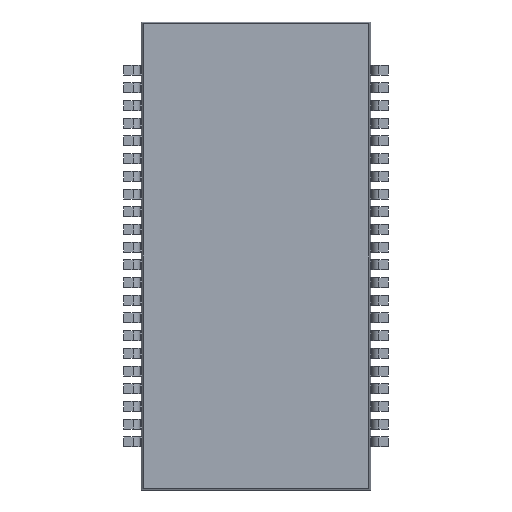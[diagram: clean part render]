
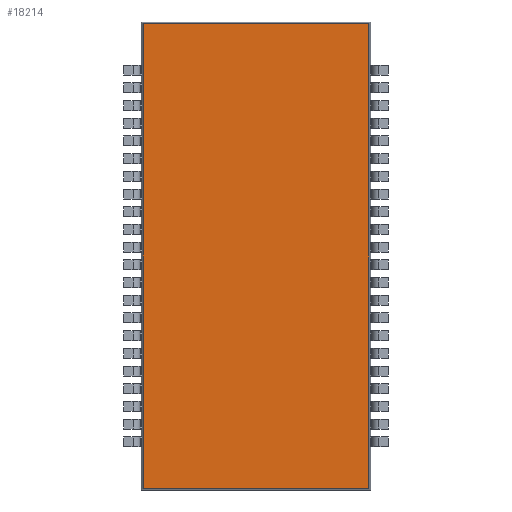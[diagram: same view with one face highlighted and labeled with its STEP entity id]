
A CAD part, front view. The second image highlights one B-rep face of the part: STEP entity #18214.
In plain terms, the highlighted planar face has unit normal (0, -1, 0).
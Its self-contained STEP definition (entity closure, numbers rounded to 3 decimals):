
#194 = LINE ( 'NONE', #12763, #203 ) ;
#203 = VECTOR ( 'NONE', #12726, 1000. ) ;
#214 = LINE ( 'NONE', #12704, #219 ) ;
#219 = VECTOR ( 'NONE', #12680, 1000. ) ;
#702 = LINE ( 'NONE', #1421, #705 ) ;
#704 = LINE ( 'NONE', #1423, #707 ) ;
#705 = VECTOR ( 'NONE', #1422, 1000. ) ;
#707 = VECTOR ( 'NONE', #1424, 1000. ) ;
#1421 = CARTESIAN_POINT ( 'NONE',  ( 5.18, 0.1, -10.491 ) ) ;
#1422 = DIRECTION ( 'NONE',  ( 1., 0., 0. ) ) ;
#1423 = CARTESIAN_POINT ( 'NONE',  ( 5.18, 0.1, 10.491 ) ) ;
#1424 = DIRECTION ( 'NONE',  ( -1., 0., 0. ) ) ;
#3141 = PLANE ( 'NONE',  #21102 ) ;
#3143 = CARTESIAN_POINT ( 'NONE',  ( 0., 0.1, 0. ) ) ;
#3155 = DIRECTION ( 'NONE',  ( 0., 1., 0. ) ) ;
#3156 = DIRECTION ( 'NONE',  ( 0., 0., 1. ) ) ;
#3541 = FACE_OUTER_BOUND ( 'NONE', #18949, .T. ) ;
#12680 = DIRECTION ( 'NONE',  ( 0., 0., 1. ) ) ;
#12704 = CARTESIAN_POINT ( 'NONE',  ( 5.096, 0.1, 10.575 ) ) ;
#12726 = DIRECTION ( 'NONE',  ( 0., 0., -1. ) ) ;
#12763 = CARTESIAN_POINT ( 'NONE',  ( -5.096, 0.1, 10.575 ) ) ;
#15012 = CARTESIAN_POINT ( 'NONE',  ( 5.096, 0.1, 10.491 ) ) ;
#15019 = CARTESIAN_POINT ( 'NONE',  ( 5.096, 0.1, -10.491 ) ) ;
#15341 = CARTESIAN_POINT ( 'NONE',  ( -5.096, 0.1, -10.491 ) ) ;
#15344 = CARTESIAN_POINT ( 'NONE',  ( -5.096, 0.1, 10.491 ) ) ;
#16354 = EDGE_CURVE ( 'NONE', #23495, #23493, #194, .T. ) ;
#16362 = EDGE_CURVE ( 'NONE', #23273, #23266, #214, .T. ) ;
#16638 = EDGE_CURVE ( 'NONE', #23493, #23273, #702, .T. ) ;
#16639 = EDGE_CURVE ( 'NONE', #23266, #23495, #704, .T. ) ;
#17492 = ORIENTED_EDGE ( 'NONE', *, *, #16354, .T. ) ;
#17493 = ORIENTED_EDGE ( 'NONE', *, *, #16638, .T. ) ;
#17494 = ORIENTED_EDGE ( 'NONE', *, *, #16362, .T. ) ;
#17495 = ORIENTED_EDGE ( 'NONE', *, *, #16639, .T. ) ;
#18214 = ADVANCED_FACE ( 'NONE', ( #3541 ), #3141, .F. ) ;
#18949 = EDGE_LOOP ( 'NONE', ( #17492, #17493, #17494, #17495 ) ) ;
#21102 = AXIS2_PLACEMENT_3D ( 'NONE', #3143, #3155, #3156 ) ;
#23266 = VERTEX_POINT ( 'NONE', #15012 ) ;
#23273 = VERTEX_POINT ( 'NONE', #15019 ) ;
#23493 = VERTEX_POINT ( 'NONE', #15341 ) ;
#23495 = VERTEX_POINT ( 'NONE', #15344 ) ;
